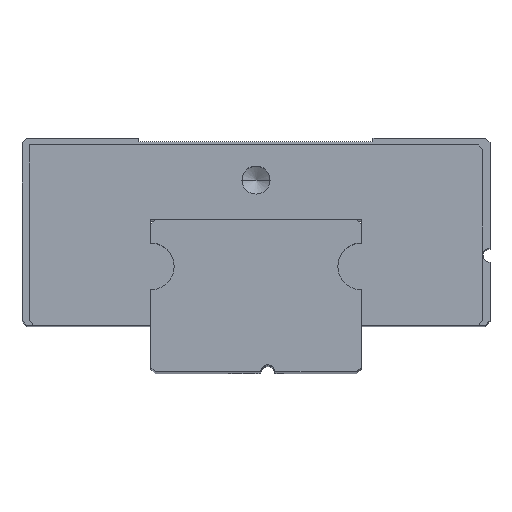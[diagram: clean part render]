
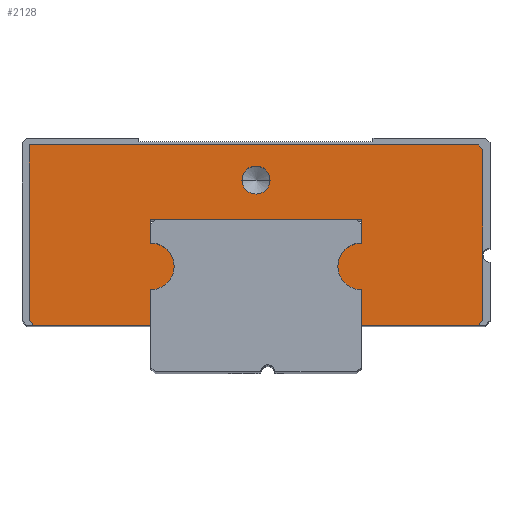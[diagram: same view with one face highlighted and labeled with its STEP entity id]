
A CAD part, top view. The second image highlights one B-rep face of the part: STEP entity #2128.
In plain terms, the highlighted planar face has unit normal (0, 0, 1).
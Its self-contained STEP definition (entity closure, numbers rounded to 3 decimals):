
#52 = ORIENTED_EDGE ( 'NONE', *, *, #1279, .T. ) ;
#64 = EDGE_CURVE ( 'NONE', #994, #2985, #523, .T. ) ;
#162 = EDGE_CURVE ( 'NONE', #994, #1530, #1413, .T. ) ;
#224 = CIRCLE ( 'NONE', #2876, 1. ) ;
#237 = CARTESIAN_POINT ( 'NONE',  ( 0.6, 8.2, 19.95 ) ) ;
#300 = ORIENTED_EDGE ( 'NONE', *, *, #590, .F. ) ;
#317 = ORIENTED_EDGE ( 'NONE', *, *, #4562, .T. ) ;
#336 = DIRECTION ( 'NONE',  ( -1., 0., 0. ) ) ;
#412 = VERTEX_POINT ( 'NONE', #3804 ) ;
#413 = ORIENTED_EDGE ( 'NONE', *, *, #3483, .T. ) ;
#421 = VERTEX_POINT ( 'NONE', #3727 ) ;
#424 = DIRECTION ( 'NONE',  ( 0., 1., 0. ) ) ;
#463 = ORIENTED_EDGE ( 'NONE', *, *, #3184, .T. ) ;
#508 = ORIENTED_EDGE ( 'NONE', *, *, #3523, .F. ) ;
#523 = LINE ( 'NONE', #3068, #4691 ) ;
#530 = CIRCLE ( 'NONE', #3270, 1. ) ;
#535 = AXIS2_PLACEMENT_3D ( 'NONE', #2953, #3622, #4857 ) ;
#590 = EDGE_CURVE ( 'NONE', #3825, #1007, #3947, .T. ) ;
#632 = CARTESIAN_POINT ( 'NONE',  ( 4.5, 0., 19.95 ) ) ;
#670 = LINE ( 'NONE', #2920, #2016 ) ;
#698 = LINE ( 'NONE', #746, #3914 ) ;
#738 = ORIENTED_EDGE ( 'NONE', *, *, #3713, .T. ) ;
#746 = CARTESIAN_POINT ( 'NONE',  ( 4.5, 5.5, 19.95 ) ) ;
#767 = VECTOR ( 'NONE', #1444, 1000. ) ;
#776 = CARTESIAN_POINT ( 'NONE',  ( -9.7, 5., 19.95 ) ) ;
#874 = AXIS2_PLACEMENT_3D ( 'NONE', #1725, #3864, #4265 ) ;
#928 = DIRECTION ( 'NONE',  ( 0., 1., 0. ) ) ;
#940 = DIRECTION ( 'NONE',  ( 0.707, -0.707, 0. ) ) ;
#955 = CARTESIAN_POINT ( 'NONE',  ( 4.5, 5.5, 19.95 ) ) ;
#994 = VERTEX_POINT ( 'NONE', #1431 ) ;
#998 = VECTOR ( 'NONE', #3315, 1000. ) ;
#1007 = VERTEX_POINT ( 'NONE', #2147 ) ;
#1040 = CARTESIAN_POINT ( 'NONE',  ( -9.7, 9.7, 19.95 ) ) ;
#1060 = CARTESIAN_POINT ( 'NONE',  ( 9.7, 2.2, 19.95 ) ) ;
#1136 = VERTEX_POINT ( 'NONE', #4155 ) ;
#1148 = VERTEX_POINT ( 'NONE', #1870 ) ;
#1218 = ORIENTED_EDGE ( 'NONE', *, *, #2608, .T. ) ;
#1246 = VERTEX_POINT ( 'NONE', #1518 ) ;
#1279 = EDGE_CURVE ( 'NONE', #1530, #412, #2177, .T. ) ;
#1315 = CARTESIAN_POINT ( 'NONE',  ( 9.7, 2.2, 19.95 ) ) ;
#1323 = DIRECTION ( 'NONE',  ( 0., 0., 1. ) ) ;
#1350 = DIRECTION ( 'NONE',  ( -1., 0., 0. ) ) ;
#1413 = LINE ( 'NONE', #1484, #3730 ) ;
#1420 = CARTESIAN_POINT ( 'NONE',  ( -4.5, 2., 19.95 ) ) ;
#1431 = CARTESIAN_POINT ( 'NONE',  ( 9.5, 9.7, 19.95 ) ) ;
#1440 = VERTEX_POINT ( 'NONE', #237 ) ;
#1444 = DIRECTION ( 'NONE',  ( 0., -1., 0. ) ) ;
#1446 = DIRECTION ( 'NONE',  ( 1., 0., 0. ) ) ;
#1449 = CARTESIAN_POINT ( 'NONE',  ( 0., 8.2, 19.95 ) ) ;
#1481 = CARTESIAN_POINT ( 'NONE',  ( 10., 2., 19.95 ) ) ;
#1484 = CARTESIAN_POINT ( 'NONE',  ( 10., 9.7, 19.95 ) ) ;
#1487 = CIRCLE ( 'NONE', #2414, 0.6 ) ;
#1510 = CARTESIAN_POINT ( 'NONE',  ( 4.5, 6.5, 19.95 ) ) ;
#1518 = CARTESIAN_POINT ( 'NONE',  ( -9.5, 2., 19.95 ) ) ;
#1530 = VERTEX_POINT ( 'NONE', #1040 ) ;
#1539 = CARTESIAN_POINT ( 'NONE',  ( 4.5, 4.5, 19.95 ) ) ;
#1547 = DIRECTION ( 'NONE',  ( 0., -1., 0. ) ) ;
#1552 = DIRECTION ( 'NONE',  ( 1., 0., 0. ) ) ;
#1573 = CARTESIAN_POINT ( 'NONE',  ( -4.5, 3.5, 19.95 ) ) ;
#1576 = EDGE_CURVE ( 'NONE', #4156, #421, #4437, .T. ) ;
#1626 = LINE ( 'NONE', #3782, #2421 ) ;
#1633 = CARTESIAN_POINT ( 'NONE',  ( -4.5, 6.5, 19.95 ) ) ;
#1640 = CIRCLE ( 'NONE', #535, 0.6 ) ;
#1673 = EDGE_LOOP ( 'NONE', ( #317, #1218 ) ) ;
#1695 = FACE_OUTER_BOUND ( 'NONE', #4114, .T. ) ;
#1725 = CARTESIAN_POINT ( 'NONE',  ( 10., 5., 19.95 ) ) ;
#1784 = ORIENTED_EDGE ( 'NONE', *, *, #4723, .T. ) ;
#1870 = CARTESIAN_POINT ( 'NONE',  ( 4.5, 6.5, 19.95 ) ) ;
#1884 = ORIENTED_EDGE ( 'NONE', *, *, #4257, .F. ) ;
#1923 = EDGE_CURVE ( 'NONE', #4333, #3433, #4138, .T. ) ;
#1991 = DIRECTION ( 'NONE',  ( 0., -1., 0. ) ) ;
#2016 = VECTOR ( 'NONE', #940, 1000. ) ;
#2059 = AXIS2_PLACEMENT_3D ( 'NONE', #2722, #1323, #1350 ) ;
#2128 = ADVANCED_FACE ( 'NONE', ( #2813, #1695 ), #3182, .T. ) ;
#2147 = CARTESIAN_POINT ( 'NONE',  ( -4.5, 5.5, 19.95 ) ) ;
#2177 = LINE ( 'NONE', #776, #767 ) ;
#2218 = LINE ( 'NONE', #1481, #3509 ) ;
#2238 = DIRECTION ( 'NONE',  ( 0., 1., 0. ) ) ;
#2388 = CARTESIAN_POINT ( 'NONE',  ( -0.6, 8.2, 19.95 ) ) ;
#2414 = AXIS2_PLACEMENT_3D ( 'NONE', #1449, #3694, #336 ) ;
#2421 = VECTOR ( 'NONE', #424, 1000. ) ;
#2525 = CARTESIAN_POINT ( 'NONE',  ( 4.5, 4.5, 19.95 ) ) ;
#2574 = DIRECTION ( 'NONE',  ( -1., 0., 0. ) ) ;
#2591 = CARTESIAN_POINT ( 'NONE',  ( -4.5, 3.5, 19.95 ) ) ;
#2594 = VERTEX_POINT ( 'NONE', #2909 ) ;
#2608 = EDGE_CURVE ( 'NONE', #1440, #3575, #1487, .T. ) ;
#2670 = VECTOR ( 'NONE', #1547, 1000. ) ;
#2672 = DIRECTION ( 'NONE',  ( 0., 0., 1. ) ) ;
#2722 = CARTESIAN_POINT ( 'NONE',  ( -4.5, 4.5, 19.95 ) ) ;
#2744 = CIRCLE ( 'NONE', #2059, 1. ) ;
#2813 = FACE_BOUND ( 'NONE', #1673, .T. ) ;
#2876 = AXIS2_PLACEMENT_3D ( 'NONE', #1539, #2672, #4324 ) ;
#2878 = ORIENTED_EDGE ( 'NONE', *, *, #4229, .T. ) ;
#2909 = CARTESIAN_POINT ( 'NONE',  ( 3.5, 4.5, 19.95 ) ) ;
#2910 = VERTEX_POINT ( 'NONE', #955 ) ;
#2920 = CARTESIAN_POINT ( 'NONE',  ( -9.5, 2., 19.95 ) ) ;
#2953 = CARTESIAN_POINT ( 'NONE',  ( 0., 8.2, 19.95 ) ) ;
#2985 = VERTEX_POINT ( 'NONE', #4248 ) ;
#3061 = CARTESIAN_POINT ( 'NONE',  ( 4.5, 2., 19.95 ) ) ;
#3068 = CARTESIAN_POINT ( 'NONE',  ( 9.5, 9.7, 19.95 ) ) ;
#3105 = ORIENTED_EDGE ( 'NONE', *, *, #162, .T. ) ;
#3182 = PLANE ( 'NONE',  #874 ) ;
#3184 = EDGE_CURVE ( 'NONE', #4156, #2985, #1626, .T. ) ;
#3219 = CARTESIAN_POINT ( 'NONE',  ( -4.5, 6.5, 19.95 ) ) ;
#3270 = AXIS2_PLACEMENT_3D ( 'NONE', #2525, #4082, #2574 ) ;
#3315 = DIRECTION ( 'NONE',  ( -0.707, -0.707, 0. ) ) ;
#3339 = DIRECTION ( 'NONE',  ( -1., 0., 0. ) ) ;
#3384 = ORIENTED_EDGE ( 'NONE', *, *, #1923, .F. ) ;
#3388 = DIRECTION ( 'NONE',  ( -1., 0., 0. ) ) ;
#3433 = VERTEX_POINT ( 'NONE', #1420 ) ;
#3483 = EDGE_CURVE ( 'NONE', #1246, #3433, #4423, .T. ) ;
#3509 = VECTOR ( 'NONE', #1552, 1000. ) ;
#3523 = EDGE_CURVE ( 'NONE', #4061, #1136, #4657, .T. ) ;
#3575 = VERTEX_POINT ( 'NONE', #2388 ) ;
#3622 = DIRECTION ( 'NONE',  ( 0., 0., -1. ) ) ;
#3630 = ORIENTED_EDGE ( 'NONE', *, *, #4320, .T. ) ;
#3694 = DIRECTION ( 'NONE',  ( 0., 0., -1. ) ) ;
#3713 = EDGE_CURVE ( 'NONE', #4333, #1007, #2744, .T. ) ;
#3727 = CARTESIAN_POINT ( 'NONE',  ( 9.5, 2., 19.95 ) ) ;
#3730 = VECTOR ( 'NONE', #3339, 1000. ) ;
#3782 = CARTESIAN_POINT ( 'NONE',  ( 9.7, 5., 19.95 ) ) ;
#3804 = CARTESIAN_POINT ( 'NONE',  ( -9.7, 2.2, 19.95 ) ) ;
#3825 = VERTEX_POINT ( 'NONE', #3219 ) ;
#3864 = DIRECTION ( 'NONE',  ( 0., 0., 1. ) ) ;
#3874 = DIRECTION ( 'NONE',  ( 0.707, -0.707, 0. ) ) ;
#3914 = VECTOR ( 'NONE', #2238, 1000. ) ;
#3947 = LINE ( 'NONE', #1633, #4786 ) ;
#3960 = ORIENTED_EDGE ( 'NONE', *, *, #1576, .F. ) ;
#4061 = VERTEX_POINT ( 'NONE', #3061 ) ;
#4082 = DIRECTION ( 'NONE',  ( 0., 0., 1. ) ) ;
#4114 = EDGE_LOOP ( 'NONE', ( #4614, #1784, #508, #3630, #3960, #463, #4189, #3105, #52, #2878, #413, #3384, #738, #300, #4209, #1884 ) ) ;
#4138 = LINE ( 'NONE', #1573, #2670 ) ;
#4155 = CARTESIAN_POINT ( 'NONE',  ( 4.5, 3.5, 19.95 ) ) ;
#4156 = VERTEX_POINT ( 'NONE', #1315 ) ;
#4189 = ORIENTED_EDGE ( 'NONE', *, *, #64, .F. ) ;
#4209 = ORIENTED_EDGE ( 'NONE', *, *, #4365, .F. ) ;
#4229 = EDGE_CURVE ( 'NONE', #412, #1246, #670, .T. ) ;
#4248 = CARTESIAN_POINT ( 'NONE',  ( 9.7, 9.5, 19.95 ) ) ;
#4257 = EDGE_CURVE ( 'NONE', #2910, #1148, #698, .T. ) ;
#4264 = VECTOR ( 'NONE', #928, 1000. ) ;
#4265 = DIRECTION ( 'NONE',  ( 1., 0., 0. ) ) ;
#4320 = EDGE_CURVE ( 'NONE', #4061, #421, #2218, .T. ) ;
#4324 = DIRECTION ( 'NONE',  ( -1., 0., 0. ) ) ;
#4333 = VERTEX_POINT ( 'NONE', #2591 ) ;
#4365 = EDGE_CURVE ( 'NONE', #1148, #3825, #4893, .T. ) ;
#4423 = LINE ( 'NONE', #4834, #4501 ) ;
#4437 = LINE ( 'NONE', #1060, #998 ) ;
#4501 = VECTOR ( 'NONE', #1446, 1000. ) ;
#4541 = EDGE_CURVE ( 'NONE', #2910, #2594, #530, .T. ) ;
#4547 = VECTOR ( 'NONE', #3388, 1000. ) ;
#4562 = EDGE_CURVE ( 'NONE', #3575, #1440, #1640, .T. ) ;
#4614 = ORIENTED_EDGE ( 'NONE', *, *, #4541, .T. ) ;
#4657 = LINE ( 'NONE', #632, #4264 ) ;
#4691 = VECTOR ( 'NONE', #3874, 1000. ) ;
#4723 = EDGE_CURVE ( 'NONE', #2594, #1136, #224, .T. ) ;
#4786 = VECTOR ( 'NONE', #1991, 1000. ) ;
#4834 = CARTESIAN_POINT ( 'NONE',  ( 10., 2., 19.95 ) ) ;
#4857 = DIRECTION ( 'NONE',  ( -1., 0., 0. ) ) ;
#4893 = LINE ( 'NONE', #1510, #4547 ) ;
